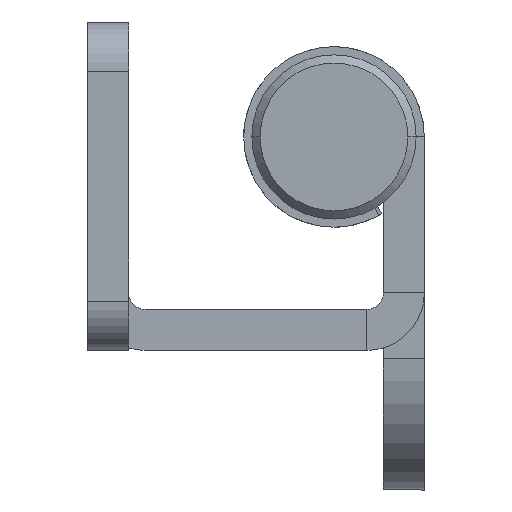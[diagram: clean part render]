
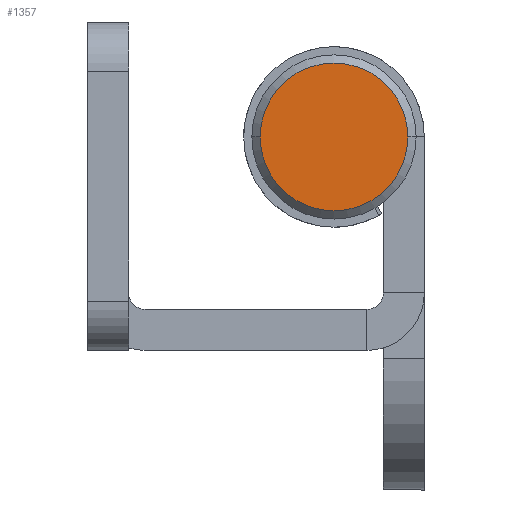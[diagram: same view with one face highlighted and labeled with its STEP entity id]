
A CAD part, left-side view. The second image highlights one B-rep face of the part: STEP entity #1357.
In plain terms, the highlighted planar face has unit normal (-1, 0, 0).
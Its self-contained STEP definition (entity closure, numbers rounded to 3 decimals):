
#111 = VERTEX_POINT ( 'NONE', #4155 ) ;
#449 = DIRECTION ( 'NONE',  ( -1., 0., 0. ) ) ;
#510 = CARTESIAN_POINT ( 'NONE',  ( -2., 0., 0. ) ) ;
#848 = DIRECTION ( 'NONE',  ( 0., -1., 0. ) ) ;
#1357 = ADVANCED_FACE ( 'NONE', ( #3981 ), #3122, .T. ) ;
#1721 = DIRECTION ( 'NONE',  ( -1., 0., 0. ) ) ;
#1826 = AXIS2_PLACEMENT_3D ( 'NONE', #2403, #1721, #4183 ) ;
#1832 = AXIS2_PLACEMENT_3D ( 'NONE', #2543, #449, #2902 ) ;
#2045 = CIRCLE ( 'NONE', #3625, 4.5 ) ;
#2375 = CARTESIAN_POINT ( 'NONE',  ( -2., 4.5, 0. ) ) ;
#2403 = CARTESIAN_POINT ( 'NONE',  ( -2., 5., 0. ) ) ;
#2534 = ORIENTED_EDGE ( 'NONE', *, *, #3993, .T. ) ;
#2543 = CARTESIAN_POINT ( 'NONE',  ( -2., 0., 0. ) ) ;
#2902 = DIRECTION ( 'NONE',  ( 0., -1., 0. ) ) ;
#2967 = DIRECTION ( 'NONE',  ( -1., 0., 0. ) ) ;
#3033 = EDGE_LOOP ( 'NONE', ( #2534, #3272 ) ) ;
#3122 = PLANE ( 'NONE',  #1826 ) ;
#3228 = CIRCLE ( 'NONE', #1832, 4.5 ) ;
#3272 = ORIENTED_EDGE ( 'NONE', *, *, #3370, .T. ) ;
#3370 = EDGE_CURVE ( 'NONE', #111, #4426, #3228, .T. ) ;
#3625 = AXIS2_PLACEMENT_3D ( 'NONE', #510, #2967, #848 ) ;
#3981 = FACE_OUTER_BOUND ( 'NONE', #3033, .T. ) ;
#3993 = EDGE_CURVE ( 'NONE', #4426, #111, #2045, .T. ) ;
#4155 = CARTESIAN_POINT ( 'NONE',  ( -2., -4.5, 0. ) ) ;
#4183 = DIRECTION ( 'NONE',  ( 0., -1., 0. ) ) ;
#4426 = VERTEX_POINT ( 'NONE', #2375 ) ;
